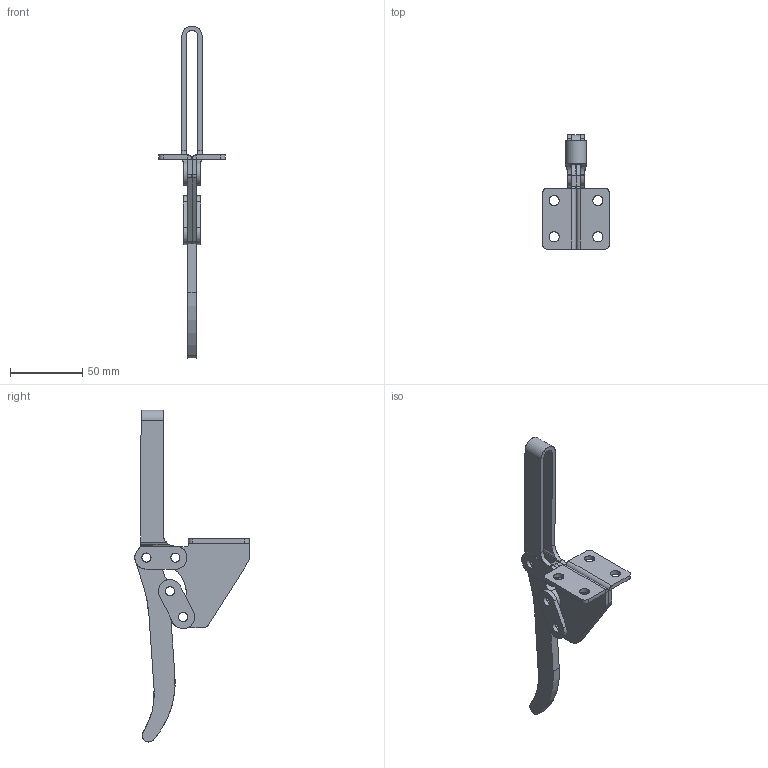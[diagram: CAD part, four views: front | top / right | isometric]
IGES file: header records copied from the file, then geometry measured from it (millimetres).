
Start section: SolidWorks IGES file using analytic representation for surfaces
Global section: file name: D:\GH Files\GH-SW-FILES\GH2\202FL\GH-202FL.IGS; native system: SolidWorks 2007; preprocessor: SolidWorks 2007; author: Administrator; date: 061127.154058; units: millimetre
Bounding box: 46 x 79 x 229.48 mm (x, y, z)
Surface area: 32479.4 mm2 (no closed solid volume)
Topology: 0 solids, 0 shells, 155 faces, 2764 edges, 2764 vertices
Faces by surface type: revolution 93, bspline 62
